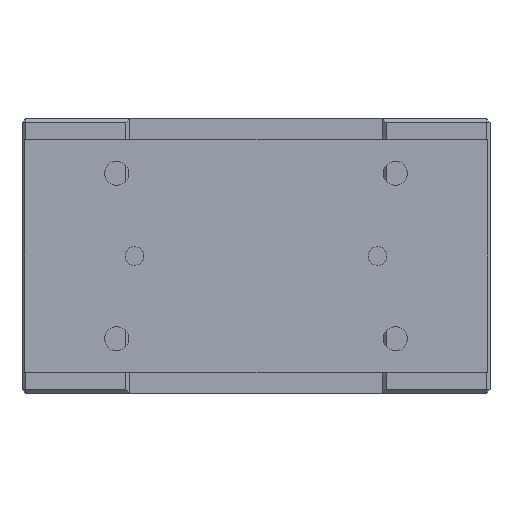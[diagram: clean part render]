
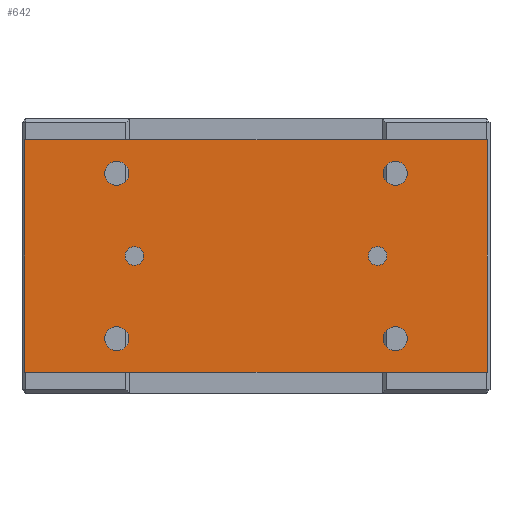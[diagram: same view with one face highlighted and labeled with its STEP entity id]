
A CAD part, left-side view. The second image highlights one B-rep face of the part: STEP entity #642.
In plain terms, the highlighted planar face has unit normal (-1, 0, 0).
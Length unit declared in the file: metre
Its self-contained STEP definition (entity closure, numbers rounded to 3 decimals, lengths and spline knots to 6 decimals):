
#642 = ADVANCED_FACE( '', ( #1449, #1450, #1451, #1452, #1453, #1454, #1455 ), #1456, .T. );
#1449 = FACE_BOUND( '', #2343, .T. );
#1450 = FACE_BOUND( '', #2344, .T. );
#1451 = FACE_BOUND( '', #2345, .T. );
#1452 = FACE_BOUND( '', #2346, .T. );
#1453 = FACE_BOUND( '', #2347, .T. );
#1454 = FACE_BOUND( '', #2348, .T. );
#1455 = FACE_OUTER_BOUND( '', #2349, .T. );
#1456 = PLANE( '', #2350 );
#2343 = EDGE_LOOP( '', ( #3895 ) );
#2344 = EDGE_LOOP( '', ( #3896 ) );
#2345 = EDGE_LOOP( '', ( #3897 ) );
#2346 = EDGE_LOOP( '', ( #3898 ) );
#2347 = EDGE_LOOP( '', ( #3899 ) );
#2348 = EDGE_LOOP( '', ( #3900 ) );
#2349 = EDGE_LOOP( '', ( #3901, #3902, #3903, #3904 ) );
#2350 = AXIS2_PLACEMENT_3D( '', #3905, #3906, #3907 );
#3895 = ORIENTED_EDGE( '', *, *, #4423, .F. );
#3896 = ORIENTED_EDGE( '', *, *, #4358, .T. );
#3897 = ORIENTED_EDGE( '', *, *, #4671, .F. );
#3898 = ORIENTED_EDGE( '', *, *, #4521, .F. );
#3899 = ORIENTED_EDGE( '', *, *, #4853, .F. );
#3900 = ORIENTED_EDGE( '', *, *, #4737, .F. );
#3901 = ORIENTED_EDGE( '', *, *, #4798, .T. );
#3902 = ORIENTED_EDGE( '', *, *, #4850, .T. );
#3903 = ORIENTED_EDGE( '', *, *, #4586, .T. );
#3904 = ORIENTED_EDGE( '', *, *, #4836, .T. );
#3905 = CARTESIAN_POINT( '', ( -0.143, -0.1245, -0.0115 ) );
#3906 = DIRECTION( '', ( -1., 0., 0. ) );
#3907 = DIRECTION( '', ( 0., 0., 1. ) );
#4358 = EDGE_CURVE( '', #5039, #5039, #5040, .T. );
#4423 = EDGE_CURVE( '', #5148, #5148, #5149, .T. );
#4521 = EDGE_CURVE( '', #5306, #5306, #5307, .T. );
#4586 = EDGE_CURVE( '', #5408, #5406, #5409, .T. );
#4671 = EDGE_CURVE( '', #5537, #5537, #5538, .T. );
#4737 = EDGE_CURVE( '', #5630, #5630, #5631, .T. );
#4798 = EDGE_CURVE( '', #5707, #5705, #5708, .T. );
#4836 = EDGE_CURVE( '', #5406, #5707, #5757, .T. );
#4850 = EDGE_CURVE( '', #5705, #5408, #5773, .T. );
#4853 = EDGE_CURVE( '', #5776, #5776, #5777, .T. );
#5039 = VERTEX_POINT( '', #6027 );
#5040 = CIRCLE( '', #6028, 0.005 );
#5148 = VERTEX_POINT( '', #6201 );
#5149 = CIRCLE( '', #6202, 0.005 );
#5306 = VERTEX_POINT( '', #6412 );
#5307 = CIRCLE( '', #6413, 0.0065 );
#5406 = VERTEX_POINT( '', #6641 );
#5408 = VERTEX_POINT( '', #6644 );
#5409 = LINE( '', #6645, #6646 );
#5537 = VERTEX_POINT( '', #6815 );
#5538 = CIRCLE( '', #6816, 0.0065 );
#5630 = VERTEX_POINT( '', #6969 );
#5631 = CIRCLE( '', #6970, 0.0065 );
#5705 = VERTEX_POINT( '', #7065 );
#5707 = VERTEX_POINT( '', #7068 );
#5708 = LINE( '', #7069, #7070 );
#5757 = LINE( '', #7158, #7159 );
#5773 = LINE( '', #7176, #7177 );
#5776 = VERTEX_POINT( '', #7180 );
#5777 = CIRCLE( '', #7181, 0.0065 );
#6027 = CARTESIAN_POINT( '', ( -0.143, 0.0705, -0.074 ) );
#6028 = AXIS2_PLACEMENT_3D( '', #7386, #7387, #7388 );
#6201 = CARTESIAN_POINT( '', ( -0.143, -0.0705, -0.074 ) );
#6202 = AXIS2_PLACEMENT_3D( '', #7466, #7467, #7468 );
#6412 = CARTESIAN_POINT( '', ( -0.143, 0.075, -0.112 ) );
#6413 = AXIS2_PLACEMENT_3D( '', #7573, #7574, #7575 );
#6641 = CARTESIAN_POINT( '', ( -0.143, 0.1245, -0.1365 ) );
#6644 = CARTESIAN_POINT( '', ( -0.143, 0.1245, -0.0115 ) );
#6645 = CARTESIAN_POINT( '', ( -0.143, 0.1245, -0.0115 ) );
#6646 = VECTOR( '', #7646, 1. );
#6815 = CARTESIAN_POINT( '', ( -0.143, -0.075, -0.112 ) );
#6816 = AXIS2_PLACEMENT_3D( '', #7748, #7749, #7750 );
#6969 = CARTESIAN_POINT( '', ( -0.143, 0.075, -0.023 ) );
#6970 = AXIS2_PLACEMENT_3D( '', #7818, #7819, #7820 );
#7065 = CARTESIAN_POINT( '', ( -0.143, -0.1245, -0.0115 ) );
#7068 = CARTESIAN_POINT( '', ( -0.143, -0.1245, -0.1365 ) );
#7069 = CARTESIAN_POINT( '', ( -0.143, -0.1245, -0.1365 ) );
#7070 = VECTOR( '', #7873, 1. );
#7158 = CARTESIAN_POINT( '', ( -0.143, 0.1245, -0.1365 ) );
#7159 = VECTOR( '', #7910, 1. );
#7176 = CARTESIAN_POINT( '', ( -0.143, -0.1245, -0.0115 ) );
#7177 = VECTOR( '', #7921, 1. );
#7180 = CARTESIAN_POINT( '', ( -0.143, -0.075, -0.023 ) );
#7181 = AXIS2_PLACEMENT_3D( '', #7922, #7923, #7924 );
#7386 = CARTESIAN_POINT( '', ( -0.143, 0.0655, -0.074 ) );
#7387 = DIRECTION( '', ( 1., 0., 0. ) );
#7388 = DIRECTION( '', ( 0., 1., 0. ) );
#7466 = CARTESIAN_POINT( '', ( -0.143, -0.0655, -0.074 ) );
#7467 = DIRECTION( '', ( -1., 0., 0. ) );
#7468 = DIRECTION( '', ( 0., -1., 0. ) );
#7573 = CARTESIAN_POINT( '', ( -0.143, 0.075, -0.1185 ) );
#7574 = DIRECTION( '', ( -1., 0., 0. ) );
#7575 = DIRECTION( '', ( 0., 0., 1. ) );
#7646 = DIRECTION( '', ( 0., 0., -1. ) );
#7748 = CARTESIAN_POINT( '', ( -0.143, -0.075, -0.1185 ) );
#7749 = DIRECTION( '', ( -1., 0., 0. ) );
#7750 = DIRECTION( '', ( 0., 0., 1. ) );
#7818 = CARTESIAN_POINT( '', ( -0.143, 0.075, -0.0295 ) );
#7819 = DIRECTION( '', ( -1., 0., 0. ) );
#7820 = DIRECTION( '', ( 0., 0., 1. ) );
#7873 = DIRECTION( '', ( 0., 0., 1. ) );
#7910 = DIRECTION( '', ( 0., -1., 0. ) );
#7921 = DIRECTION( '', ( 0., 1., 0. ) );
#7922 = CARTESIAN_POINT( '', ( -0.143, -0.075, -0.0295 ) );
#7923 = DIRECTION( '', ( -1., 0., 0. ) );
#7924 = DIRECTION( '', ( 0., 0., 1. ) );
